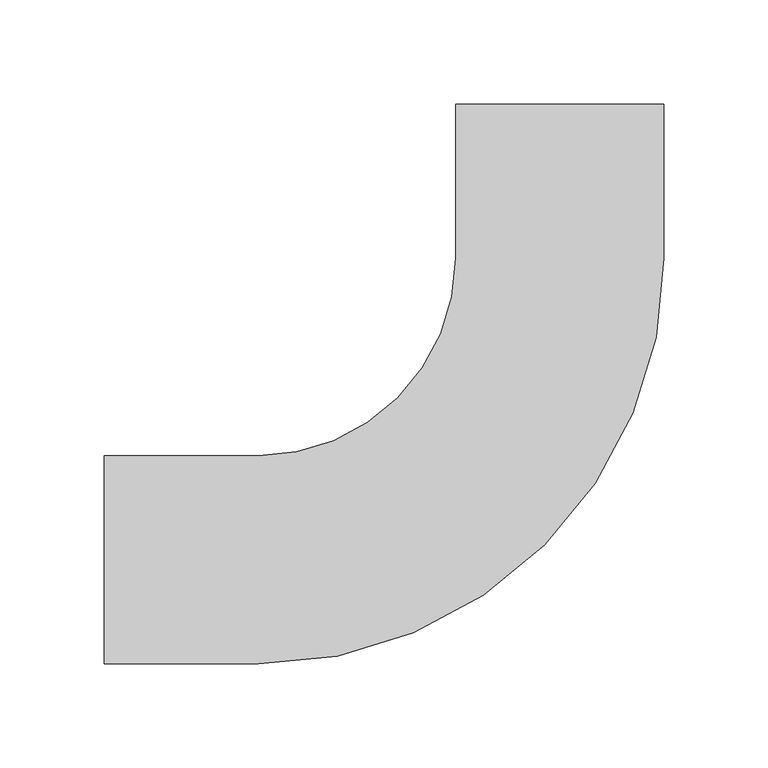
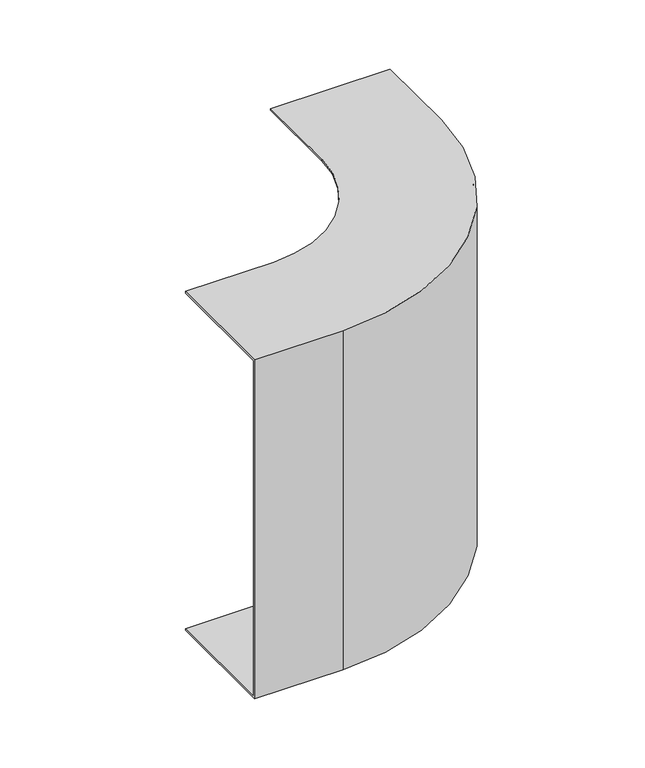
"""IFC4 building model written with IfcOpenShell, lengths in millimetres: cable carrier fitting geometry, BAKS_KK_Vertical bend EXTERNAL_LU : LUNP_H100."""

from ifc_helpers import new_model, si_unit, frame, origin, place, context, project, spatial, polyline, circle_curve, source, transform, mapped, element, save
from ifc_brep_helpers import plane_surface, cylinder_surface, revolved_surface, advanced_brep


def cable_carrier_fitting_eff098e2(model_context):
    return source(origin(), model_context, "Body", "AdvancedBrep", [
        advanced_brep(
        [(-219.0, 50.0, 150.0), (-219.0, 50.0, 148.5), (-219.0, -48.5, 148.5), (-219.0, -48.5, -148.5), (-219.0, 50.0, -148.5), (-219.0, 50.0, -150.0), (-219.0, -50.0, -150.0), (-219.0, -50.0, 150.0), (-50.0, 219.0, 150.0), (50.0, 219.0, 150.0), (50.0, 219.0, -150.0), (-50.0, 219.0, -150.0), (-50.0, 219.0, -148.5), (48.5, 219.0, -148.5), (48.5, 219.0, 148.5), (-50.0, 219.0, 148.5), (-145.0, -50.0, 150.0), (50.0, 145.0, 150.0), (-50.0, 145.0, 150.0), (-145.0, 50.0, 150.0), (-145.0, -50.0, -150.0), (-145.0, 50.0, -150.0), (-50.0, 145.0, -150.0), (50.0, 145.0, -150.0), (-145.0, 50.0, -148.5), (-145.0, -48.5, -148.5), (48.5, 145.0, -148.5), (-50.0, 145.0, -148.5), (-145.0, -48.5, 148.5), (-145.0, 50.0, 148.5), (-50.0, 145.0, 148.5), (48.5, 145.0, 148.5)],
        [
            (0, 1),
            (1, 2),
            (2, 3),
            (3, 4),
            (4, 5),
            (5, 6),
            (6, 7),
            (7, 0),
            (8, 9),
            (9, 10),
            (10, 11),
            (11, 12),
            (12, 13),
            (13, 14),
            (14, 15),
            (15, 8),
            (7, 16),
            (16, 17, circle_curve(frame((-145.0, 145.0, 150.0), z_axis=(0.0, 0.0, 1.0), x_axis=(0.0, -1.0, 0.0)), 195.0)),
            (17, 9),
            (8, 18),
            (18, 19, circle_curve(frame((-145.0, 145.0, 150.0), z_axis=(0.0, 0.0, -1.0), x_axis=(0.0, -1.0, 0.0)), 95.0)),
            (19, 0),
            (6, 20),
            (20, 16),
            (5, 21),
            (21, 22, circle_curve(frame((-145.0, 145.0, -150.0), z_axis=(0.0, 0.0, 1.0), x_axis=(0.0, -1.0, 0.0)), 95.0)),
            (22, 11),
            (10, 23),
            (23, 20, circle_curve(frame((-145.0, 145.0, -150.0), z_axis=(0.0, 0.0, -1.0), x_axis=(0.0, -1.0, 0.0)), 195.0)),
            (4, 24),
            (24, 21),
            (3, 25),
            (25, 26, circle_curve(frame((-145.0, 145.0, -148.5), z_axis=(0.0, 0.0, 1.0), x_axis=(0.0, -1.0, 0.0)), 193.5)),
            (26, 13),
            (12, 27),
            (27, 24, circle_curve(frame((-145.0, 145.0, -148.5), z_axis=(0.0, 0.0, -1.0), x_axis=(0.0, -1.0, 0.0)), 95.0)),
            (2, 28),
            (28, 25),
            (1, 29),
            (29, 30, circle_curve(frame((-145.0, 145.0, 148.5), z_axis=(0.0, 0.0, 1.0), x_axis=(0.0, -1.0, 0.0)), 95.0)),
            (30, 15),
            (14, 31),
            (31, 28, circle_curve(frame((-145.0, 145.0, 148.5), z_axis=(0.0, 0.0, -1.0), x_axis=(0.0, -1.0, 0.0)), 193.5)),
            (19, 29),
            (23, 17),
            (27, 22),
            (31, 26),
            (18, 30),
        ],
        [
            plane_surface(frame((-219.0, 0.0, 0.0), z_axis=(-1.0, 0.0, 0.0), x_axis=(0.0, 0.0, 1.0))),
            plane_surface(frame((0.0, 219.0, 0.0), z_axis=(0.0, 1.0, 0.0), x_axis=(0.0, 0.0, 1.0))),
            plane_surface(frame((-219.0, -50.0, 150.0), z_axis=(0.0, 0.0, 1.0), x_axis=(1.0, 0.0, 0.0))),
            plane_surface(frame((-219.0, -50.0, -150.0), z_axis=(0.0, -1.0, 0.0), x_axis=(1.0, 0.0, 0.0))),
            plane_surface(frame((-219.0, 50.0, -150.0), z_axis=(0.0, 0.0, -1.0), x_axis=(1.0, 0.0, 0.0))),
            plane_surface(frame((-219.0, 50.0, -148.5), z_axis=(0.0, 1.0, 0.0), x_axis=(1.0, 0.0, 0.0))),
            plane_surface(frame((-219.0, -48.5, -148.5), z_axis=(0.0, 0.0, 1.0), x_axis=(1.0, 0.0, 0.0))),
            plane_surface(frame((-219.0, -48.5, 148.5), z_axis=(0.0, 1.0, 0.0), x_axis=(1.0, 0.0, 0.0))),
            plane_surface(frame((-219.0, 50.0, 148.5), z_axis=(0.0, 0.0, -1.0), x_axis=(1.0, 0.0, 0.0))),
            plane_surface(frame((-219.0, 50.0, 150.0), z_axis=(0.0, 1.0, 0.0), x_axis=(1.0, 0.0, 0.0))),
            cylinder_surface(frame((-145.0, 145.0, 0.0), z_axis=(0.0, 0.0, 1.0), x_axis=(0.0, -1.0, 0.0)), 195.0),
            revolved_surface(polyline([(-145.0, 50.0, -148.5), (-145.0, 50.0, -150.0)]), (-145.0, 145.0, 0.0), (0.0, 0.0, 1.0)),
            revolved_surface(polyline([(-145.0, -48.5, 148.5), (-145.0, -48.5, -148.5)]), (-145.0, 145.0, 0.0), (0.0, 0.0, 1.0)),
            revolved_surface(polyline([(-145.0, 50.0, 150.0), (-145.0, 50.0, 148.5)]), (-145.0, 145.0, 0.0), (0.0, 0.0, 1.0)),
            plane_surface(frame((50.0, 145.0, -150.0), z_axis=(1.0, 0.0, 0.0), x_axis=(0.0, 1.0, 0.0))),
            plane_surface(frame((-50.0, 145.0, -148.5), z_axis=(-1.0, 0.0, 0.0), x_axis=(0.0, 1.0, 0.0))),
            plane_surface(frame((48.5, 145.0, 148.5), z_axis=(-1.0, 0.0, 0.0), x_axis=(0.0, 1.0, 0.0))),
            plane_surface(frame((-50.0, 145.0, 150.0), z_axis=(-1.0, 0.0, 0.0), x_axis=(0.0, 1.0, 0.0))),
        ],
        [
            (0, [[1, 2, 3, 4, 5, 6, 7, 8]]),
            (1, [[9, 10, 11, 12, 13, 14, 15, 16]]),
            (2, [[-8, 17, 18, 19, -9, 20, 21, 22]]),
            (3, [[-7, 23, 24, -17]]),
            (4, [[-6, 25, 26, 27, -11, 28, 29, -23]]),
            (5, [[-5, 30, 31, -25]]),
            (6, [[-4, 32, 33, 34, -13, 35, 36, -30]]),
            (7, [[-3, 37, 38, -32]]),
            (8, [[-2, 39, 40, 41, -15, 42, 43, -37]]),
            (9, [[-1, -22, 44, -39]]),
            (10, [[-18, -24, -29, 45]]),
            (11, [[-26, -31, -36, 46]]),
            (12, [[-33, -38, -43, 47]]),
            (13, [[-40, -44, -21, 48]]),
            (14, [[-45, -28, -10, -19]]),
            (15, [[-46, -35, -12, -27]]),
            (16, [[-47, -42, -14, -34]]),
            (17, [[-48, -20, -16, -41]]),
        ],
    ),
    ])


if __name__ == "__main__":
    model = new_model("IFC4")
    model_context = context("Model", 3, world=origin())
    ifc_project = project(units=[si_unit("LENGTHUNIT", "METRE", prefix="MILLI")], contexts=[model_context])
    site = spatial("IfcSite", under=ifc_project)
    building = spatial("IfcBuilding", under=site)
    placement = place(None, origin())
    cable_carrier_fitting_shape = cable_carrier_fitting_eff098e2(model_context)
    element("IfcCableCarrierFitting", 1, ObjectType="BAKS_KK_Vertical bend EXTERNAL_LU : LUNP_H100", at=placement, inside=building, context=model_context, shape_type="MappedRepresentation", body=[
        mapped(cable_carrier_fitting_shape, transform((0.0, 0.0, 0.0), x_axis=(1.0, 0.0, 0.0), y_axis=(0.0, 1.0, 0.0), z_axis=(0.0, 0.0, 1.0))),
    ])
    save(model, "model.ifc")
